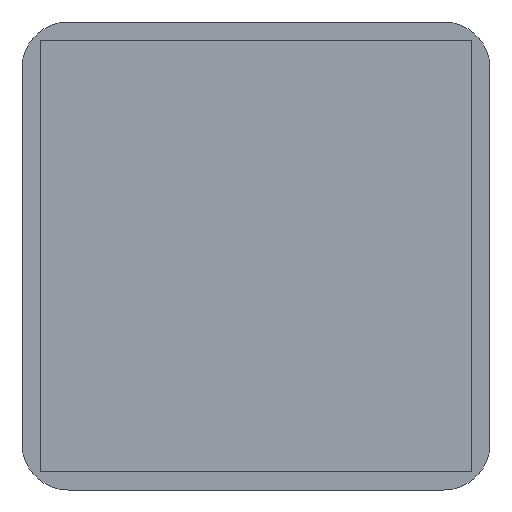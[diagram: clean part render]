
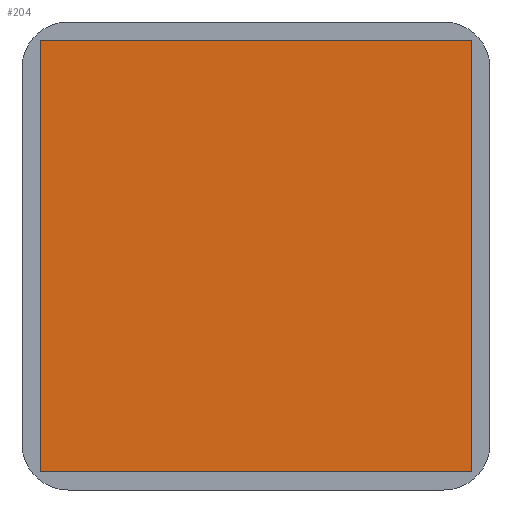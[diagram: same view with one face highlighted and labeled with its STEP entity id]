
A CAD part, front view. The second image highlights one B-rep face of the part: STEP entity #204.
In plain terms, the highlighted planar face has unit normal (0, -1, 0).
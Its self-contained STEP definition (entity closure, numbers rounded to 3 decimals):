
#28 = VERTEX_POINT ( 'NONE', #2179 ) ;
#44 = DIRECTION ( 'NONE',  ( 0., 0., 1. ) ) ;
#63 = CARTESIAN_POINT ( 'NONE',  ( -9.5, -0.13, -9.5 ) ) ;
#97 = ORIENTED_EDGE ( 'NONE', *, *, #396, .T. ) ;
#204 = ADVANCED_FACE ( 'NONE', ( #2921 ), #1751, .T. ) ;
#244 = LINE ( 'NONE', #2482, #1740 ) ;
#330 = CARTESIAN_POINT ( 'NONE',  ( 9.5, -0.13, -9.5 ) ) ;
#396 = EDGE_CURVE ( 'NONE', #1042, #1071, #244, .T. ) ;
#436 = VECTOR ( 'NONE', #44, 1000. ) ;
#567 = DIRECTION ( 'NONE',  ( 0., -1., 0. ) ) ;
#585 = CARTESIAN_POINT ( 'NONE',  ( 9.5, -0.13, 9.5 ) ) ;
#657 = DIRECTION ( 'NONE',  ( 1., 0., 0. ) ) ;
#723 = EDGE_LOOP ( 'NONE', ( #1257, #2286, #97, #1487 ) ) ;
#781 = VERTEX_POINT ( 'NONE', #330 ) ;
#958 = EDGE_CURVE ( 'NONE', #1071, #781, #1115, .T. ) ;
#1021 = CARTESIAN_POINT ( 'NONE',  ( 9.5, -0.13, 9.5 ) ) ;
#1042 = VERTEX_POINT ( 'NONE', #1379 ) ;
#1062 = LINE ( 'NONE', #1021, #2729 ) ;
#1071 = VERTEX_POINT ( 'NONE', #63 ) ;
#1115 = LINE ( 'NONE', #1527, #1853 ) ;
#1143 = LINE ( 'NONE', #1316, #436 ) ;
#1257 = ORIENTED_EDGE ( 'NONE', *, *, #2773, .T. ) ;
#1316 = CARTESIAN_POINT ( 'NONE',  ( 9.5, -0.13, -9.5 ) ) ;
#1379 = CARTESIAN_POINT ( 'NONE',  ( -9.5, -0.13, 9.5 ) ) ;
#1441 = AXIS2_PLACEMENT_3D ( 'NONE', #585, #567, #1457 ) ;
#1457 = DIRECTION ( 'NONE',  ( 0., 0., 1. ) ) ;
#1487 = ORIENTED_EDGE ( 'NONE', *, *, #958, .T. ) ;
#1527 = CARTESIAN_POINT ( 'NONE',  ( 9.5, -0.13, -9.5 ) ) ;
#1567 = DIRECTION ( 'NONE',  ( 0., 0., -1. ) ) ;
#1594 = EDGE_CURVE ( 'NONE', #28, #1042, #1062, .T. ) ;
#1740 = VECTOR ( 'NONE', #1567, 1000. ) ;
#1751 = PLANE ( 'NONE',  #1441 ) ;
#1853 = VECTOR ( 'NONE', #657, 1000. ) ;
#2179 = CARTESIAN_POINT ( 'NONE',  ( 9.5, -0.13, 9.5 ) ) ;
#2286 = ORIENTED_EDGE ( 'NONE', *, *, #1594, .T. ) ;
#2482 = CARTESIAN_POINT ( 'NONE',  ( -9.5, -0.13, -9.5 ) ) ;
#2643 = DIRECTION ( 'NONE',  ( -1., 0., 0. ) ) ;
#2729 = VECTOR ( 'NONE', #2643, 1000. ) ;
#2773 = EDGE_CURVE ( 'NONE', #781, #28, #1143, .T. ) ;
#2921 = FACE_OUTER_BOUND ( 'NONE', #723, .T. ) ;
